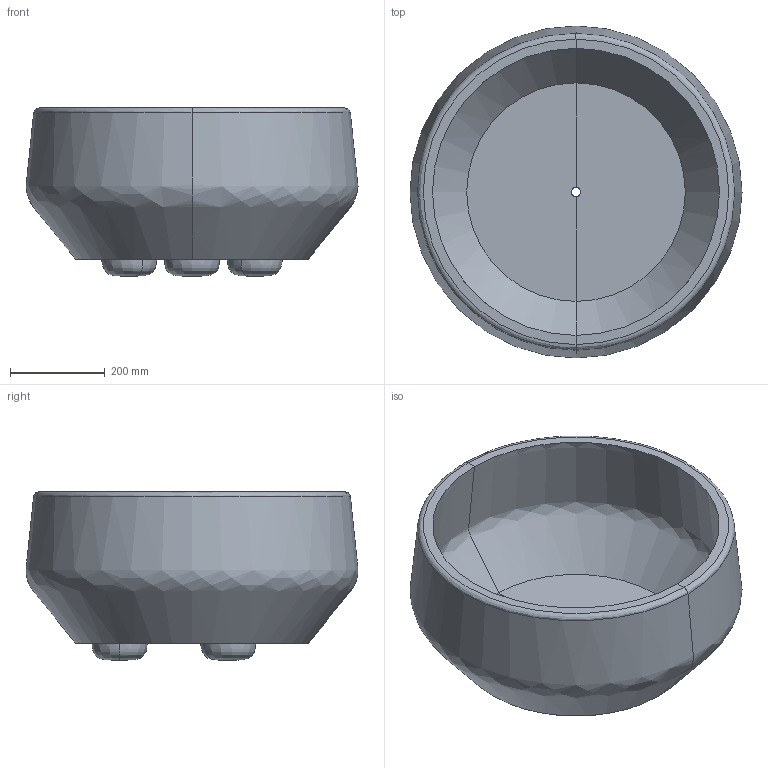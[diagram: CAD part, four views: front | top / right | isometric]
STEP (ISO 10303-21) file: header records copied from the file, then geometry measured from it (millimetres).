
FILE_DESCRIPTION(/* description */ (''),/* implementation_level */ '2;1');
FILE_NAME(/* name */ '70',/* time_stamp */ '2026-04-30T09:07:32+02:00',/* author */ (''),/* organization */ (''),/* preprocessor_version */ 'ST-DEVELOPER v19.2',/* originating_system */ 'Rhino 8.30',/* authorisation */ '');
FILE_SCHEMA (('CONFIG_CONTROL_DESIGN'));
Length unit declared in the file: millimetre
Products named in the file (1): Document
Bounding box: 700 x 699.89 x 355.37 mm (x, y, z)
Volume: 26446245 mm3; surface area: 1735232.4 mm2
Topology: 1 solids, 1 shells, 21 faces, 50 edges, 27 vertices
Faces by surface type: bspline 14, plane 5, cylinder 2
Entity records: 1198 total; most frequent: CARTESIAN_POINT 708, ORIENTED_EDGE 88, DIRECTION 67, EDGE_CURVE 44, AXIS2_PLACEMENT_3D 37, TRIMMED_CURVE 28, CIRCLE 28, VERTEX_POINT 27
